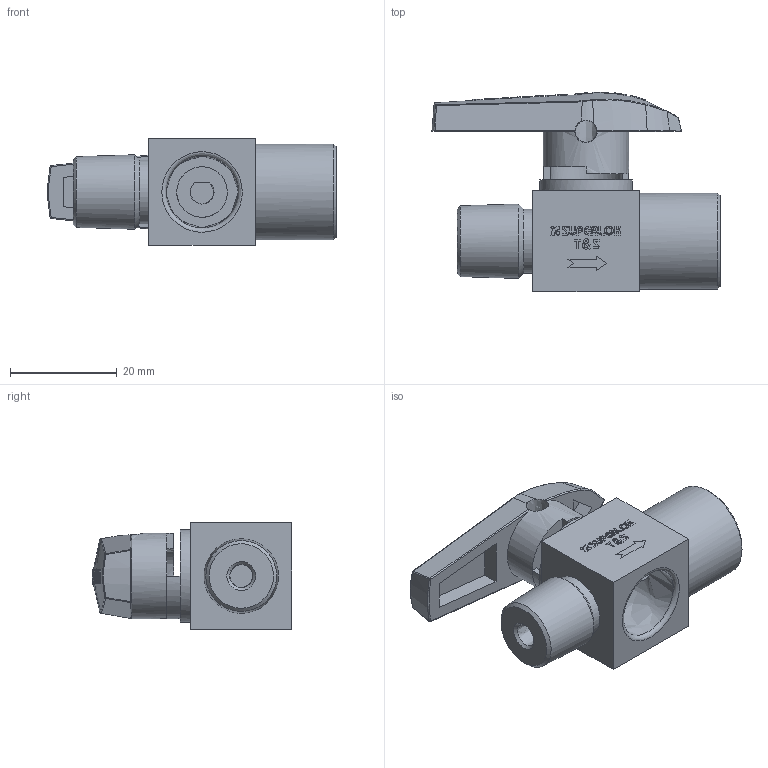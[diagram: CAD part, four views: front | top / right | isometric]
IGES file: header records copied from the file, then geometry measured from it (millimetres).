
Global section: file name: SP131-M4N-F4N; native system: Autodesk Inventor 2016; preprocessor: unknown; author: DESIGNPC2; date: 20160502.091442; units: millimetre
Bounding box: 54.17 x 37.5 x 20.01 mm (x, y, z)
Volume: 12269.5 mm3; surface area: 8066.3 mm2
Topology: 2 solids, 2 shells, 405 faces, 1075 edges, 713 vertices
Faces by surface type: bspline 405
